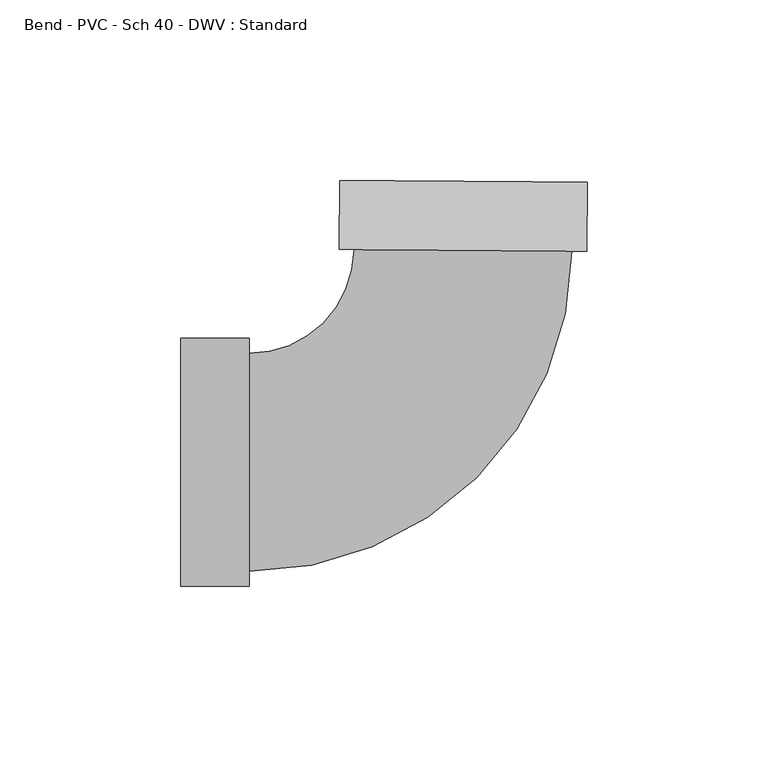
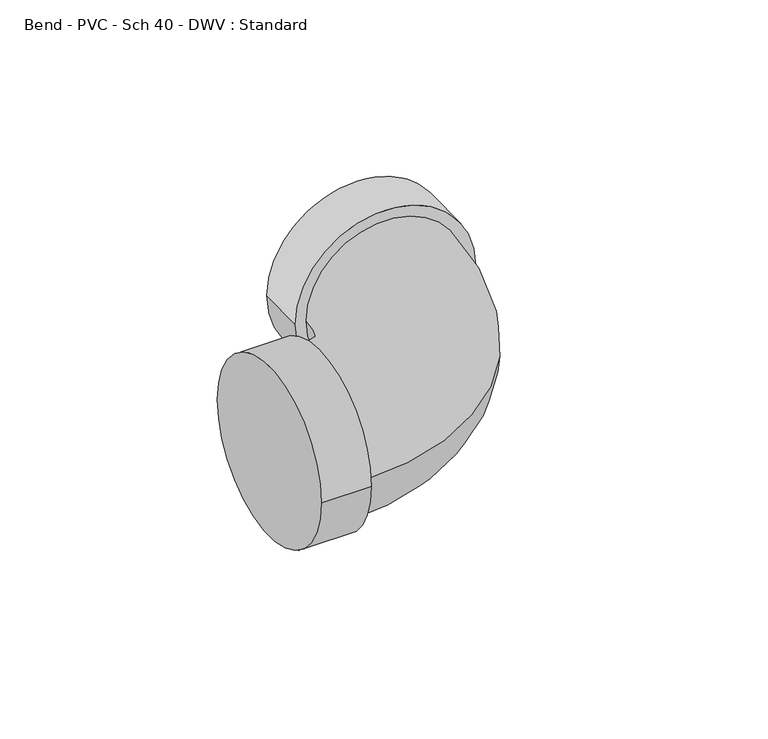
"""IFC4 building model written with IfcOpenShell, lengths in millimetres: pipe fitting geometry, Bend - PVC - Sch 40 - DWV : Standard."""

from ifc_helpers import new_model, si_unit, point, frame, origin, place, context, project, spatial, circle_curve, ellipse_curve, trimmed, source, transform, mapped, element, save
from ifc_brep_helpers import plane_surface, cylinder_surface, revolved_surface, advanced_brep


def bend_pvc_sch_40_dwv_standard_71e1cde9(model_context):
    return source(origin(), model_context, "Body", "AdvancedBrep", [
        advanced_brep(
        [(-77.8002, -34.3154, 0.0), (-77.8002, 34.3154, 0.0), (-58.7502, -34.3154, 0.0), (-58.7502, 34.3154, 0.0), (-58.7502, -30.1625, 0.0), (-58.7502, 30.1625, 0.0), (-29.7289693, 58.9707622, 0.0), (30.5943945, 58.5264507, 0.0), (34.7471818, 58.4958634, 0.0), (-33.8817566, 59.0013495, 0.0), (34.8874907, 77.5453467, 0.0), (-33.7414477, 78.0508328, 0.0)],
        [
            (0, 1, circle_curve(frame((-77.8002, 0.0, 0.0), z_axis=(-1.0, 0.0, 0.0), x_axis=(0.0, 1.0, 0.0)), 34.3154)),
            (1, 0, circle_curve(frame((-77.8002, 0.0, 0.0), z_axis=(-1.0, 0.0, 0.0), x_axis=(0.0, 1.0, 0.0)), 34.3154)),
            (2, 3, circle_curve(frame((-58.7502, 0.0, 0.0), z_axis=(1.0, 0.0, 0.0), x_axis=(0.0, 1.0, 0.0)), 34.3154)),
            (3, 2, circle_curve(frame((-58.7502, 0.0, 0.0), z_axis=(1.0, 0.0, 0.0), x_axis=(0.0, 1.0, 0.0)), 34.3154)),
            (4, 5, circle_curve(frame((-58.7502, 0.0, 0.0), z_axis=(-1.0, 0.0, 0.0), x_axis=(0.0, 1.0, 0.0)), 30.1625)),
            (5, 4, circle_curve(frame((-58.7502, 0.0, 0.0), z_axis=(-1.0, 0.0, 0.0), x_axis=(0.0, 1.0, 0.0)), 30.1625)),
            (0, 2),
            (3, 1),
            (6, 5, circle_curve(frame((-58.7502, 59.1845179, 0.0), z_axis=(0.0, 0.0, -1.0), x_axis=(0.0, -1.0, 0.0)), 29.0220179)),
            (4, 7, circle_curve(frame((-58.7502, 59.1845179, 0.0), z_axis=(0.0, 0.0, 1.0), x_axis=(0.0, -1.0, 0.0)), 89.3470179)),
            (7, 6, circle_curve(frame((0.4327126, 58.7486065, 0.0), z_axis=(-0.00736529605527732, -0.999972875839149, 0.0), x_axis=(-0.999972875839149, 0.00736529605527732, 0.0)), 30.1625)),
            (6, 7, circle_curve(frame((0.4327126, 58.7486065, 0.0), z_axis=(-0.00736529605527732, -0.999972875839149, 0.0), x_axis=(-0.999972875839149, 0.00736529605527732, 0.0)), 30.1625)),
            (8, 9, circle_curve(frame((0.4327126, 58.7486065, 0.0), z_axis=(-0.007365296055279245, -0.9999728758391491, 0.0), x_axis=(-0.9999728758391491, 0.007365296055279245, 0.0)), 34.3154)),
            (9, 8, circle_curve(frame((0.4327126, 58.7486065, 0.0), z_axis=(-0.007365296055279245, -0.9999728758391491, 0.0), x_axis=(-0.9999728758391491, 0.007365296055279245, 0.0)), 34.3154)),
            (10, 11, circle_curve(frame((0.5730215, 77.7980897, 0.0), z_axis=(0.007365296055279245, 0.9999728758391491, 0.0), x_axis=(-0.9999728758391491, 0.007365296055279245, 0.0)), 34.3154)),
            (11, 10, circle_curve(frame((0.5730215, 77.7980897, 0.0), z_axis=(0.007365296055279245, 0.9999728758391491, 0.0), x_axis=(-0.9999728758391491, 0.007365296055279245, 0.0)), 34.3154)),
            (8, 10),
            (11, 9),
        ],
        [
            plane_surface(frame((-77.8002, 0.0, 0.0), z_axis=(-1.0, 0.0, 0.0), x_axis=(0.0, 0.0, 1.0))),
            plane_surface(frame((-58.7502, 0.0, 0.0), z_axis=(1.0, 0.0, 0.0), x_axis=(0.0, 0.0, 1.0))),
            cylinder_surface(frame((-77.8002, 0.0, 0.0), z_axis=(-1.0, 0.0, 0.0), x_axis=(0.0, 1.0, 0.0)), 34.3154),
            revolved_surface(trimmed(ellipse_curve(frame((-58.7502, 0.0, 0.0), z_axis=(-1.0, 0.0, 0.0), x_axis=(0.0, 1.0, 0.0)), 30.1625, 30.1625), [point((-58.7502, -30.1625, 0.0))], [point((-58.7502, 30.1625, 0.0))], True, "CARTESIAN"), (-58.7502, 59.1845179, 0.0), (0.0, 0.0, 1.0)),
            revolved_surface(trimmed(ellipse_curve(frame((-58.7502, 0.0, 0.0), z_axis=(-1.0, 0.0, 0.0), x_axis=(0.0, 1.0, 0.0)), 30.1625, 30.1625), [point((-58.7502, 30.1625, 0.0))], [point((-58.7502, -30.1625, 0.0))], True, "CARTESIAN"), (-58.7502, 59.1845179, 0.0), (0.0, 0.0, 1.0)),
            plane_surface(frame((0.4327126, 58.7486065, 0.0), z_axis=(-0.007365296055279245, -0.9999728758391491, 0.0), x_axis=(0.0, 0.0, 1.0))),
            plane_surface(frame((0.5730215, 77.7980897, 0.0), z_axis=(0.007365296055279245, 0.9999728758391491, 0.0), x_axis=(0.0, 0.0, 1.0))),
            cylinder_surface(frame((0.4327126, 58.7486065, 0.0), z_axis=(-0.007365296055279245, -0.9999728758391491, 0.0), x_axis=(-0.9999728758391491, 0.007365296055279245, 0.0)), 34.3154),
        ],
        [
            (0, [[1, 2]]),
            (1, [[3, 4], [5, 6]]),
            (2, [[-1, 7, -4, 8]]),
            (2, [[-2, -8, -3, -7]]),
            (3, [[9, -5, 10, 11]]),
            (4, [[-9, 12, -10, -6]]),
            (5, [[13, 14], [-11, -12]]),
            (6, [[15, 16]]),
            (7, [[-13, 17, -16, 18]]),
            (7, [[-14, -18, -15, -17]]),
        ],
    ),
    ])


if __name__ == "__main__":
    model = new_model("IFC4")
    model_context = context("Model", 3, world=origin())
    ifc_project = project(units=[si_unit("LENGTHUNIT", "METRE", prefix="MILLI")], contexts=[model_context])
    site = spatial("IfcSite", under=ifc_project)
    building = spatial("IfcBuilding", under=site)
    placement = place(None, origin())
    bend_pvc_sch_40_dwv_standard_shape = bend_pvc_sch_40_dwv_standard_71e1cde9(model_context)
    element("IfcPipeFitting", 1, ObjectType="Bend - PVC - Sch 40 - DWV : Standard", at=placement, inside=building, context=model_context, shape_type="MappedRepresentation", body=[
        mapped(bend_pvc_sch_40_dwv_standard_shape, transform((0.0, 0.0, 0.0), x_axis=(1.0, 0.0, 0.0), y_axis=(0.0, 1.0, 0.0), z_axis=(0.0, 0.0, 1.0))),
    ])
    save(model, "model.ifc")
